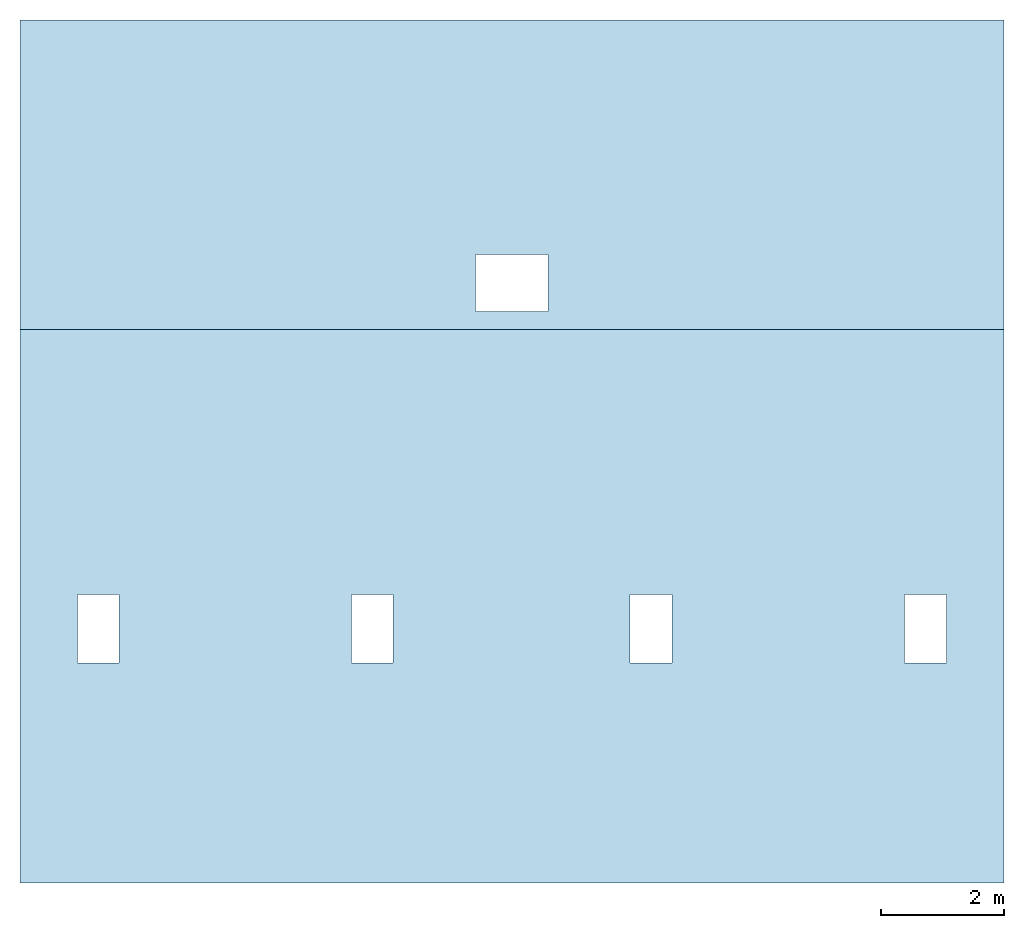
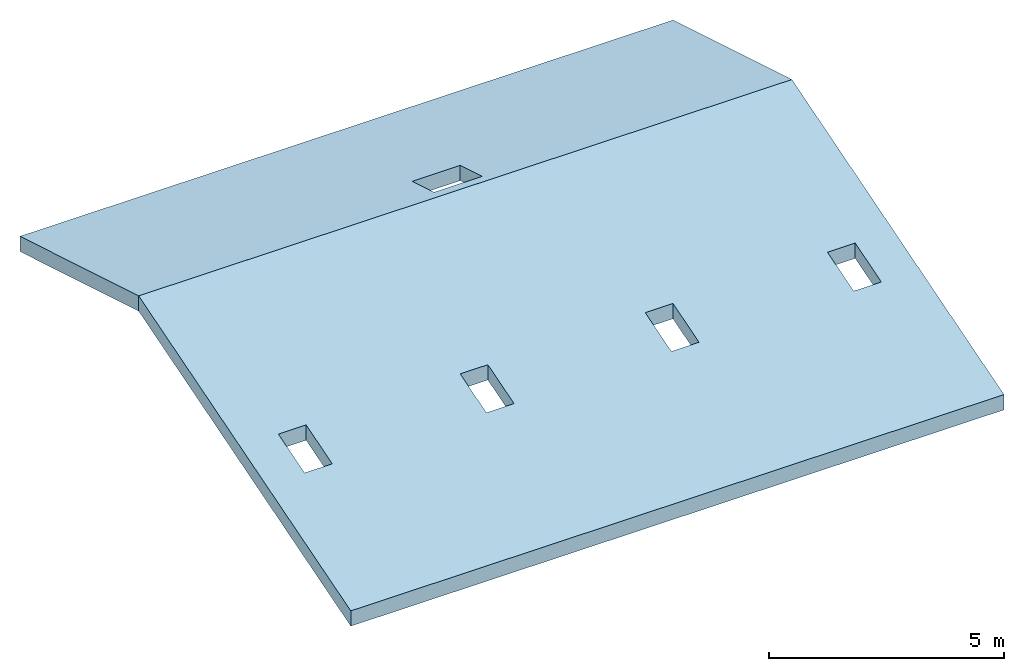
# One storey: 2 slabs, 5 openings.
"""IFC2X3 building model written with IfcOpenShell, lengths in metres."""

from ifc_helpers import new_model, entity, si_unit, converted_unit, direction, frame, origin_with_axes, place, context, project, spatial, polyline, outline, extrude, material, layer, layer_set, layer_usage, element, save


model = new_model("IFC2X3")

# Units and contexts
context_of_model = context(None, 3, precision=1e-05, world=origin_with_axes(), true_north=direction((6.123234e-17, 1.0)))
plan_context = context("Plan", 3, precision=1e-05, world=origin_with_axes(), true_north=direction((6.123234e-17, 1.0)))
model_context = context("Model", 3, precision=1e-05, world=origin_with_axes(), true_north=direction((6.123234e-17, 1.0)))
ifc_project = project(units=[si_unit("LENGTHUNIT", "METRE"), si_unit("AREAUNIT", "SQUARE_METRE"), si_unit("VOLUMEUNIT", "CUBIC_METRE"), converted_unit("PLANEANGLEUNIT", "DEGREE", entity("IfcPlaneAngleMeasure", 0.017453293), si_unit("PLANEANGLEUNIT", "RADIAN"), dimensions=[0, 0, 0, 0, 0, 0, 0]), si_unit("SOLIDANGLEUNIT", "STERADIAN"), si_unit("MASSUNIT", "GRAM"), si_unit("TIMEUNIT", "SECOND"), si_unit("THERMODYNAMICTEMPERATUREUNIT", "DEGREE_CELSIUS"), si_unit("LUMINOUSINTENSITYUNIT", "LUMEN")], contexts=[context_of_model, plan_context, model_context])

# Site, building, storey
site_placement = place(None, origin_with_axes())
site = spatial("IfcSite", under=ifc_project, at=site_placement, Name="Por defecto Sitio", CompositionType="ELEMENT")
building_placement = place(site_placement, origin_with_axes())
building = spatial("IfcBuilding", under=site, at=building_placement, Name="Por defecto Edificio", CompositionType="ELEMENT")
storey_placement = place(building_placement, frame((0.0, 0.0, 19.7), z_axis=(0.0, 0.0, 1.0), x_axis=(1.0, 0.0, 0.0)))
storey = spatial("IfcBuildingStorey", under=building, at=storey_placement, Name="Cubierta", CompositionType="ELEMENT", Elevation=19.7)

# Slab, openings
ifc_material_1 = material(Name="Grava")
ifc_layer_1 = layer(ifc_material_1, 0.03, ventilated="UNKNOWN")
ifc_material_2 = material(Name="Primer Plano")
ifc_layer_2 = layer(ifc_material_2, 0.005, ventilated="UNKNOWN")
ifc_material_3 = material(Name="Fibra de vidrio")
ifc_layer_3 = layer(ifc_material_3, 0.12, ventilated="UNKNOWN")
ifc_layer_4 = layer(ifc_material_2, 0.005, ventilated="UNKNOWN")
ifc_material_4 = material(Name="Hormigón armado")
ifc_layer_5 = layer(ifc_material_4, 0.2, ventilated="UNKNOWN")
ifc_material_5 = material(Name="Escayola")
ifc_layer_6 = layer(ifc_material_5, 0.02, ventilated="UNKNOWN")
ifc_layer_set = layer_set([ifc_layer_1, ifc_layer_2, ifc_layer_3, ifc_layer_4, ifc_layer_5, ifc_layer_6], Name="Cubierta plana")
ifc_layer_usage_1 = layer_usage(ifc_layer_set, "AXIS3", "NEGATIVE", 0.38)
slab_1_placement = place(storey_placement, frame((0.0, 7.7362995, 0.0), z_axis=(0.0, -0.28736052, 0.95782249), x_axis=(1.0, 0.0, 0.0)))
slab_1 = element("IfcSlab", 1, at=slab_1_placement, inside=storey, material=ifc_layer_usage_1, Name="Cub-003", PredefinedType="ROOF", context=context_of_model, shape_type="SweptSolid", body=[
    extrude(outline(polyline([(0.0, 0.0), (16.03417, 0.0), (16.03417, -9.4163522), (0.0, -9.4163522), (0.0, 0.0)])), origin_with_axes(), (0.0, 0.28736052, 0.95782249), 0.39673322),
])
opening_1_placement = place(slab_1_placement, origin_with_axes())
element("IfcOpeningElement", 2, at=opening_1_placement, cuts=slab_1, context=model_context, shape_type="SweptSolid", body=[
    extrude(outline(polyline([(0.93642607, -4.5091532), (1.6164261, -4.5091532), (1.6164261, -5.6706637), (0.93642607, -5.6706637), (0.93642607, -4.5091532)])), origin_with_axes(), (0.0, 0.28736052, 0.95782249), 0.39673322),
])
opening_2_placement = place(slab_1_placement, origin_with_axes())
element("IfcOpeningElement", 3, at=opening_2_placement, cuts=slab_1, context=model_context, shape_type="SweptSolid", body=[
    extrude(outline(polyline([(5.3985739, -5.6706637), (6.0785739, -5.6706637), (6.0785739, -4.5091532), (5.3985739, -4.5091532), (5.3985739, -5.6706637)])), origin_with_axes(), (0.0, 0.28736052, 0.95782249), 0.39673322),
])
opening_3_placement = place(slab_1_placement, origin_with_axes())
element("IfcOpeningElement", 4, at=opening_3_placement, cuts=slab_1, context=model_context, shape_type="SweptSolid", body=[
    extrude(outline(polyline([(9.9414261, -5.6706637), (10.621426, -5.6706637), (10.621426, -4.5091532), (9.9414261, -4.5091532), (9.9414261, -5.6706637)])), origin_with_axes(), (0.0, 0.28736052, 0.95782249), 0.39673322),
])
opening_4_placement = place(slab_1_placement, origin_with_axes())
element("IfcOpeningElement", 5, at=opening_4_placement, cuts=slab_1, context=model_context, shape_type="SweptSolid", body=[
    extrude(outline(polyline([(15.095234, -4.5091532), (14.415234, -4.5091532), (14.415234, -5.6706637), (15.095234, -5.6706637), (15.095234, -4.5091532)])), origin_with_axes(), (0.0, 0.28736052, 0.95782249), 0.39673322),
])

# Slab, opening
ifc_layer_usage_2 = layer_usage(ifc_layer_set, "AXIS3", "NEGATIVE", 0.38)
slab_2_placement = place(storey_placement, frame((16.02583, 7.7362995, 0.0), z_axis=(0.0, 0.28736052, 0.95782249), x_axis=(-1.0, 0.0, 0.0)))
slab_2 = element("IfcSlab", 6, at=slab_2_placement, inside=storey, material=ifc_layer_usage_2, Name="Cub-002", PredefinedType="ROOF", context=context_of_model, shape_type="SweptSolid", body=[
    extrude(outline(polyline([(16.02583, 0.0), (-0.0083396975, 0.0), (-0.0083396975, -5.2672894), (16.02583, -5.2672894), (16.02583, 0.0)])), origin_with_axes(), (0.0, 0.28736052, 0.95782249), 0.39673322),
])
opening_5_placement = place(slab_2_placement, origin_with_axes())
element("IfcOpeningElement", 7, at=opening_5_placement, cuts=slab_2, context=model_context, shape_type="SweptSolid", body=[
    extrude(outline(polyline([(8.6058302, -0.30909191), (7.4258302, -0.30909191), (7.4258302, -1.2793497), (8.6058302, -1.2793497), (8.6058302, -0.30909191)])), origin_with_axes(), (0.0, 0.28736052, 0.95782249), 0.39673322),
])

save(model, "model.ifc")
